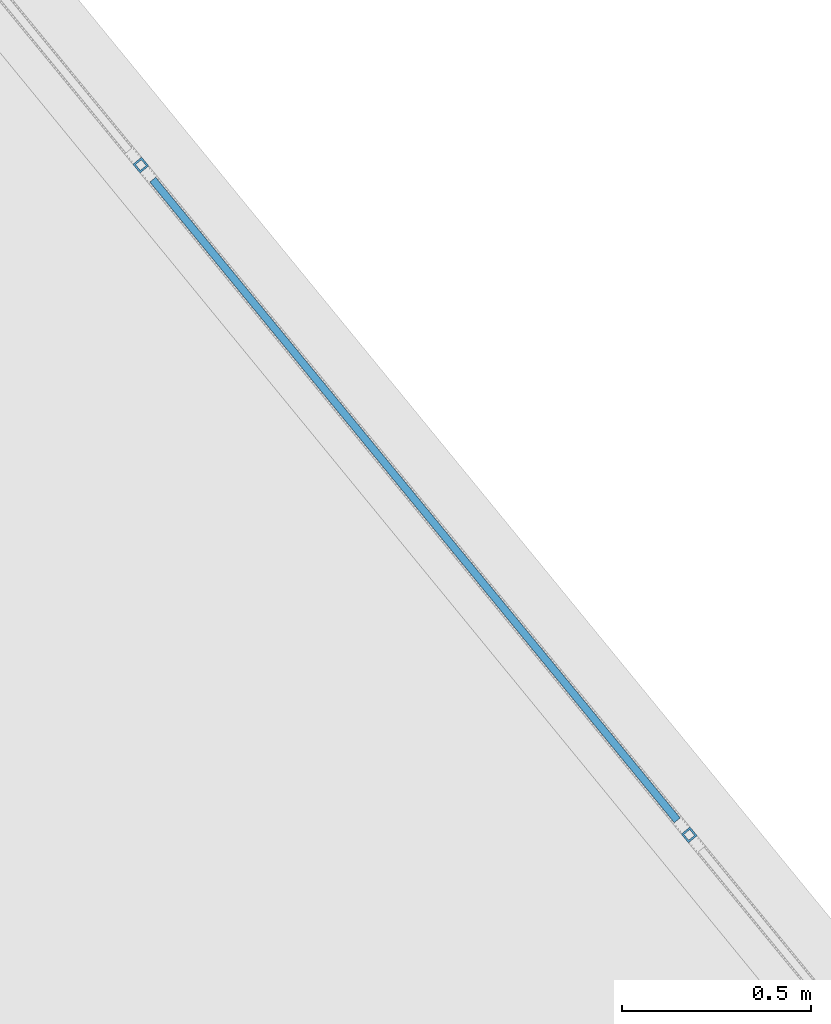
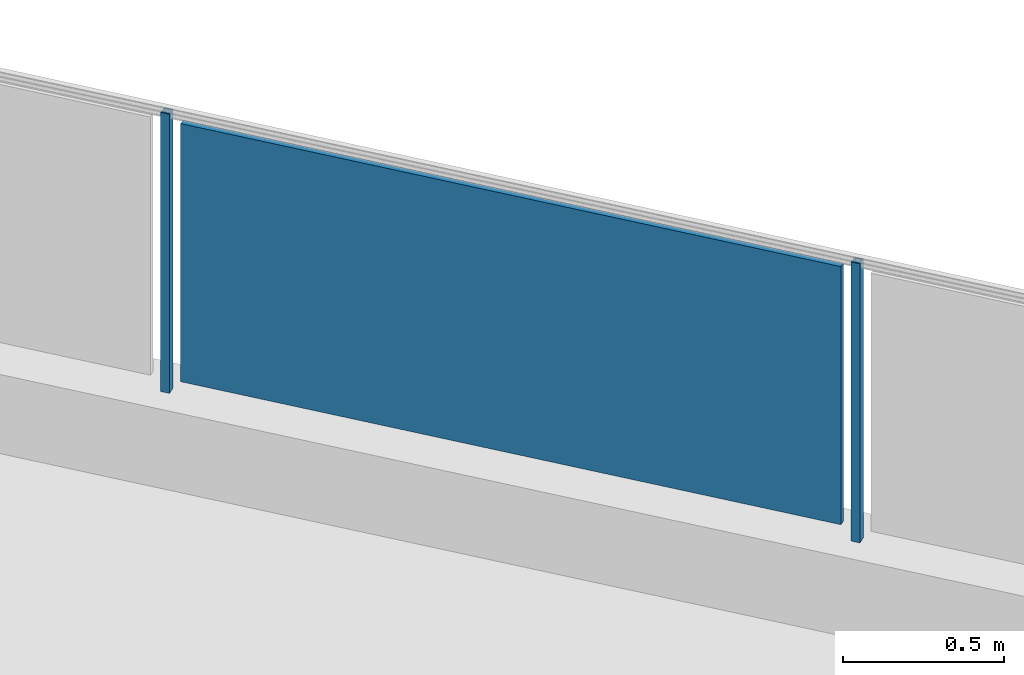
# One storey, part 18 of 75: 3 building element parts, 1 element without a shape of its own.
"""IFC4 building model written with IfcOpenShell, lengths in metres."""

import ifcopenshell
import ifcopenshell.guid

model = None  # the IFC model being written
_history = None  # IfcOwnerHistory: only IFC2X3 demands one
_inside = {}  # id of a spatial element -> (the spatial element, [elements in it])
_under = {}  # id of a project, library or spatial element -> (it, [spatial elements below it])
_declared = {}  # id of a project -> (the project, [libraries it declares])
_typed = {}  # id of a type object -> (the type object, [elements of that type])
_made_of = {}  # id of a material, layer set ... -> (it, [elements and type objects made of it])


def new_model(schema):
    """Start an empty IFC model of exactly this schema.

    Asked for "IFC4X3", IfcOpenShell would pick the latest addendum, in which some entities
    have other attributes; the version numbers below select the first issue.
    IFC2X3 requires an IfcOwnerHistory on every rooted entity: one is made here for all.
    """
    global model, _history
    if schema == "IFC4X3":
        model = ifcopenshell.file(schema_version=(4, 3, 0, 0))
    else:
        model = ifcopenshell.file(schema=schema)
    _inside.clear()
    _under.clear()
    _declared.clear()
    _typed.clear()
    _made_of.clear()
    _history = None
    if model.schema == "IFC2X3":
        org = make("IfcOrganization", Name="unknown")
        user = make(
            "IfcPersonAndOrganization",
            ThePerson=make("IfcPerson", FamilyName="unknown"),
            TheOrganization=org,
        )
        app = make(
            "IfcApplication",
            ApplicationDeveloper=org,
            Version="unknown",
            ApplicationFullName="unknown",
            ApplicationIdentifier="unknown",
        )
        _history = make(
            "IfcOwnerHistory",
            OwningUser=user,
            OwningApplication=app,
            ChangeAction="ADDED",
            CreationDate=0,
        )
    return model


def make(cls, **values):
    """One entity of the class cls with the attributes given. An attribute that is None is left unset."""
    return model.create_entity(
        cls, **{name: value for name, value in values.items() if value is not None}
    )


def entity(cls, *values):
    """Any entity or typed value of the class cls, its attributes in the order of the schema. None: left unset."""
    e = model.create_entity(cls)
    for i, value in enumerate(values):
        if value is not None:
            e[i] = value
    return e


def rooted(cls, **values):
    """An entity with a GlobalId (a new one), such as an element, a storey or a relation."""
    return make(cls, GlobalId=ifcopenshell.guid.new(), OwnerHistory=_history, **values)


def si_unit(unit_type, name, prefix=None):
    """IfcSIUnit, for example si_unit("LENGTHUNIT", "METRE", prefix="MILLI")."""
    return make("IfcSIUnit", UnitType=unit_type, Prefix=prefix, Name=name)


def converted_unit(unit_type, name, factor, base, dimensions=None, offset=None):
    """IfcConversionBasedUnit, such as the inch: factor (a typed value) times the base unit."""
    return make(
        "IfcConversionBasedUnit"
        if offset is None
        else "IfcConversionBasedUnitWithOffset",
        ConversionOffset=offset,
        Dimensions=None
        if dimensions is None
        else entity("IfcDimensionalExponents", *dimensions),
        UnitType=unit_type,
        Name=name,
        ConversionFactor=make(
            "IfcMeasureWithUnit", ValueComponent=factor, UnitComponent=base
        ),
    )


def derived_unit(unit_type, elements):
    """IfcDerivedUnit: a product of units, each with its exponent."""
    return make(
        "IfcDerivedUnit",
        Elements=[
            make("IfcDerivedUnitElement", Unit=unit, Exponent=power)
            for unit, power in elements
        ],
        UnitType=unit_type,
    )


def assignment(units):
    """IfcUnitAssignment: the units of a project."""
    return None if units is None else make("IfcUnitAssignment", Units=units)


def point(xyz):
    """IfcCartesianPoint."""
    return None if xyz is None else make("IfcCartesianPoint", Coordinates=xyz)


def direction(xyz):
    """IfcDirection."""
    return None if xyz is None else make("IfcDirection", DirectionRatios=xyz)


def frame(location, z_axis=None, x_axis=None):
    """IfcAxis2Placement3D, a coordinate frame: its origin and axes. An axis left out is left unset."""
    return make(
        "IfcAxis2Placement3D",
        Location=point(location),
        Axis=direction(z_axis),
        RefDirection=direction(x_axis),
    )


def origin_with_axes():
    """The frame at (0, 0, 0) with the z axis (0, 0, 1) and the x axis (1, 0, 0) written out."""
    return frame((0.0, 0.0, 0.0), z_axis=(0.0, 0.0, 1.0), x_axis=(1.0, 0.0, 0.0))


def place(relative_to, where):
    """IfcLocalPlacement: puts the frame where relative to a parent placement (None: the world)."""
    return make(
        "IfcLocalPlacement", PlacementRelTo=relative_to, RelativePlacement=where
    )


def context(
    kind, dimensions, precision=None, world=None, true_north=None, identifier=None
):
    """IfcGeometricRepresentationContext, for example the 3D "Model" context."""
    return make(
        "IfcGeometricRepresentationContext",
        ContextIdentifier=identifier,
        ContextType=kind,
        CoordinateSpaceDimension=dimensions,
        Precision=precision,
        WorldCoordinateSystem=world,
        TrueNorth=true_north,
    )


def subcontext(parent, identifier, kind, view, scale=None):
    """IfcGeometricRepresentationSubContext, for example "Body" below "Model"."""
    return make(
        "IfcGeometricRepresentationSubContext",
        ContextIdentifier=identifier,
        ContextType=kind,
        ParentContext=parent,
        TargetScale=scale,
        TargetView=view,
    )


def project(units=None, contexts=None):
    """IfcProject with its units and contexts."""
    return rooted(
        "IfcProject",
        Name="project",
        RepresentationContexts=contexts,
        UnitsInContext=assignment(units),
    )


def spatial(cls, under=None, at=None, **own):
    """A site, building, storey or space (cls), placed at a placement, below another one or the project."""
    s = rooted(cls, ObjectPlacement=at, **own)
    if under is not None:
        _under.setdefault(under.id(), (under, []))[1].append(s)
    return s


def point_list(points):
    """IfcCartesianPointList2D or 3D."""
    cls = (
        "IfcCartesianPointList2D" if len(points[0]) == 2 else "IfcCartesianPointList3D"
    )
    return make(cls, CoordList=points)


def polygons(points, faces, closed=None, point_numbers=None):
    """IfcPolygonalFaceSet: a face is its outer loop, then its inner loops; points numbered from 1."""
    made = []
    for loops in faces:
        if len(loops) == 1:
            made.append(make("IfcIndexedPolygonalFace", CoordIndex=loops[0]))
        else:
            made.append(
                make(
                    "IfcIndexedPolygonalFaceWithVoids",
                    CoordIndex=loops[0],
                    InnerCoordIndices=loops[1:],
                )
            )
    return make(
        "IfcPolygonalFaceSet",
        Coordinates=point_list(points),
        Closed=closed,
        Faces=made,
        PnIndex=point_numbers,
    )


def shape(context_of_items, identifier, shape_type, items):
    """IfcShapeRepresentation: the items that make up one representation, for example the "Body"."""
    return make(
        "IfcShapeRepresentation",
        ContextOfItems=context_of_items,
        RepresentationIdentifier=identifier,
        RepresentationType=shape_type,
        Items=items,
    )


def material(Name=None, Category=None):
    """IfcMaterial."""
    return make("IfcMaterial", Name=Name, Category=Category)


def made_of(thing, what):
    """Note that an element or type object is made of a material, layer set ...; save() writes the relation."""
    if what is not None:
        _made_of.setdefault(what.id(), (what, []))[1].append(thing)
    return thing


def type_object(cls, material=None, **own):
    """A type object (cls), such as IfcWallType, which elements share."""
    return made_of(rooted(cls, **own), material)


def element(
    cls,
    number,
    at=None,
    inside=None,
    cuts=None,
    type_object=None,
    material=None,
    context=None,
    identifier="Body",
    shape_type=None,
    held_by="IfcProductDefinitionShape",
    body=None,
    shapes=None,
    **own,
):
    """One element of the class cls, such as IfcWall. Its Tag is "e" and its number.

    at: its placement. inside: the storey or other place that contains it. cuts: it is an
    opening in that element (IfcRelVoidsElement). A single representation is given by context,
    identifier, shape_type and body (its items); several are given by shapes. held_by: the class
    of the entity that holds the representations. save() writes the other relations.
    """
    e = rooted(cls, Tag="e%d" % number, ObjectPlacement=at, **own)
    if body is not None:
        shapes = [shape(context, identifier, shape_type, body)]
    if shapes is not None:
        e.Representation = make(held_by, Representations=shapes)
    if inside is not None:
        _inside.setdefault(inside.id(), (inside, []))[1].append(e)
    if cuts is not None:
        rooted(
            "IfcRelVoidsElement", RelatingBuildingElement=cuts, RelatedOpeningElement=e
        )
    if type_object is not None:
        _typed.setdefault(type_object.id(), (type_object, []))[1].append(e)
    return made_of(e, material)


def aggregate(whole, parts):
    """IfcRelAggregates: a whole, such as a stair, and the parts it consists of."""
    return rooted("IfcRelAggregates", RelatingObject=whole, RelatedObjects=parts)


def save(model, path):
    """Write the relations noted so far, then the file.

    IfcRelAggregates (storeys below a building ...), IfcRelContainedInSpatialStructure (elements
    in a storey), IfcRelDefinesByType, IfcRelAssociatesMaterial and IfcRelDeclares: one each for
    every whole, place, type object, material and project.
    """
    for whole, parts in _under.values():
        aggregate(whole, parts)
    for where, things in _inside.values():
        rooted(
            "IfcRelContainedInSpatialStructure",
            RelatedElements=things,
            RelatingStructure=where,
        )
    for kind, things in _typed.values():
        rooted("IfcRelDefinesByType", RelatedObjects=things, RelatingType=kind)
    for what, things in _made_of.values():
        rooted("IfcRelAssociatesMaterial", RelatedObjects=things, RelatingMaterial=what)
    for by, libraries in _declared.values():
        rooted("IfcRelDeclares", RelatingContext=by, RelatedDefinitions=libraries)
    model.write(path)


model = new_model("IFC4")

# Units and contexts
model_context = context("Model", 3, precision=1e-05, world=origin_with_axes(), true_north=direction((0.0, 1.0)))
body_context = subcontext(model_context, "Body", "Model", "MODEL_VIEW")
ifc_project = project(units=[si_unit("LENGTHUNIT", "METRE"), si_unit("AREAUNIT", "SQUARE_METRE"), si_unit("VOLUMEUNIT", "CUBIC_METRE"), converted_unit("PLANEANGLEUNIT", "DEGREE", entity("IfcPlaneAngleMeasure", 0.0174532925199), si_unit("PLANEANGLEUNIT", "RADIAN"), dimensions=[0, 0, 0, 0, 0, 0, 0]), converted_unit("TIMEUNIT", "Year", entity("IfcTimeMeasure", 31556926.0), si_unit("TIMEUNIT", "SECOND"), dimensions=[0, 0, 1, 0, 0, 0, 0]), si_unit("MASSUNIT", "GRAM", prefix="KILO"), si_unit("THERMODYNAMICTEMPERATUREUNIT", "DEGREE_CELSIUS"), si_unit("LUMINOUSINTENSITYUNIT", "LUMEN"), si_unit("ENERGYUNIT", "JOULE", prefix="MEGA"), derived_unit("THERMALCONDUCTANCEUNIT", [(si_unit("POWERUNIT", "WATT"), 1), (si_unit("LENGTHUNIT", "METRE"), -1), (si_unit("THERMODYNAMICTEMPERATUREUNIT", "KELVIN"), -1)]), derived_unit("SPECIFICHEATCAPACITYUNIT", [(si_unit("ENERGYUNIT", "JOULE"), 1), (si_unit("MASSUNIT", "GRAM", prefix="KILO"), -1), (si_unit("THERMODYNAMICTEMPERATUREUNIT", "KELVIN"), -1)]), derived_unit("MASSDENSITYUNIT", [(si_unit("MASSUNIT", "GRAM", prefix="KILO"), 1), (si_unit("VOLUMEUNIT", "CUBIC_METRE"), -1)])], contexts=[model_context])

# Site, building, storey
site_placement = place(None, frame((-0.00153261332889, -0.00661245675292, 0.0), z_axis=(0.0, 0.0, 1.0), x_axis=(1.0, 0.0, 0.0)))
site = spatial("IfcSite", under=ifc_project, at=site_placement, Name="Gelände", CompositionType="ELEMENT")
building_placement = place(site_placement, origin_with_axes())
building = spatial("IfcBuilding", under=site, at=building_placement, Name="Gebäude", CompositionType="ELEMENT")
storey_placement = place(building_placement, frame((0.0, 0.0, -0.22), z_axis=(0.0, 0.0, 1.0), x_axis=(1.0, 0.0, 0.0)))
storey = spatial("IfcBuildingStorey", under=building, at=storey_placement, Name="EG", CompositionType="ELEMENT", Elevation=-0.22)

# Railing, building element parts
railing_type = type_object("IfcRailingType", Name="Geländerart", PredefinedType="NOTDEFINED")
railing_placement = place(storey_placement, frame((-12.1608341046, 23.557810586, 0.523948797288), z_axis=(0.0, 0.0, 1.0), x_axis=(1.0, 0.0, 0.0)))
railing = element("IfcRailing", 1, at=railing_placement, inside=storey, type_object=railing_type, Name="Geländer - 001", PredefinedType="NOTDEFINED")
ifc_material_1 = material(Name="Aluminium")
building_element_part_1_placement = place(railing_placement, origin_with_axes())
building_element_part_1 = element("IfcBuildingElementPart", 2, at=building_element_part_1_placement, material=ifc_material_1, Name="Aluminium", PredefinedType="NOTDEFINED", context=body_context, shape_type="Tessellation", body=[
    polygons([(-0.914733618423, -7.44434630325, 0.0), (-0.891520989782, -7.42534172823, 0.0), (-0.891520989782, -7.42534172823, 1.06), (-0.914733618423, -7.44434630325, 1.06), (-0.93373819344, -7.42113367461, 0.0), (-0.910525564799, -7.40212909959, 0.0), (-0.914032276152, -7.43731010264, 0.0), (-0.898557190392, -7.42464038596, 0.0), (-0.911226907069, -7.4091653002, 0.0), (-0.92670199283, -7.42183501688, 0.0), (-0.910525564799, -7.40212909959, 1.06), (-0.93373819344, -7.42113367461, 1.06), (-0.914032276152, -7.43731010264, 1.06), (-0.92670199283, -7.42183501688, 1.06), (-0.911226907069, -7.4091653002, 1.06), (-0.898557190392, -7.42464038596, 1.06)], [[[1, 2, 3, 4]], [[1, 5, 6, 2], [7, 8, 9, 10]], [[2, 6, 11, 3]], [[4, 3, 11, 12], [13, 14, 15, 16]], [[5, 1, 4, 12]], [[6, 5, 12, 11]], [[8, 7, 13, 16]], [[9, 8, 16, 15]], [[10, 9, 15, 14]], [[7, 10, 14, 13]]], closed=True),
])
ifc_material_2 = material(Name="Zaun")
building_element_part_2_placement = place(railing_placement, origin_with_axes())
building_element_part_2 = element("IfcBuildingElementPart", 3, at=building_element_part_2_placement, material=ifc_material_2, Name="Zaun", PredefinedType="NOTDEFINED", context=body_context, shape_type="Tessellation", body=[
    polygons([(0.517698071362, -9.15448740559, 0.05), (-0.873217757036, -7.45559055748, 0.05), (-0.873217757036, -7.45559055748, 1.03), (0.517698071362, -9.15448740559, 1.03), (-0.888692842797, -7.46826027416, 0.05), (0.502222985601, -9.16715712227, 0.05), (-0.888692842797, -7.46826027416, 1.03), (0.502222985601, -9.16715712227, 1.03)], [[[1, 2, 3, 4]], [[5, 2, 1, 6]], [[7, 3, 2, 5]], [[4, 3, 7, 8]], [[1, 4, 8, 6]], [[7, 5, 6, 8]]], closed=True),
])
building_element_part_3_placement = place(railing_placement, origin_with_axes())
building_element_part_3 = element("IfcBuildingElementPart", 4, at=building_element_part_3_placement, material=ifc_material_1, Name="Aluminium", PredefinedType="NOTDEFINED", context=body_context, shape_type="Tessellation", body=[
    polygons([(0.539530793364, -9.22061858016, 0.0), (0.562743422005, -9.20161400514, 0.0), (0.562743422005, -9.20161400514, 1.06), (0.539530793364, -9.22061858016, 1.06), (0.520526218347, -9.19740595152, 0.0), (0.543738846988, -9.1784013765, 0.0), (0.540232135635, -9.21358237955, 0.0), (0.555707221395, -9.20091266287, 0.0), (0.543037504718, -9.18543757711, 0.0), (0.527562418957, -9.19810729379, 0.0), (0.543738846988, -9.1784013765, 1.06), (0.520526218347, -9.19740595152, 1.06), (0.540232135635, -9.21358237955, 1.06), (0.527562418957, -9.19810729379, 1.06), (0.543037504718, -9.18543757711, 1.06), (0.555707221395, -9.20091266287, 1.06)], [[[1, 2, 3, 4]], [[1, 5, 6, 2], [7, 8, 9, 10]], [[2, 6, 11, 3]], [[4, 3, 11, 12], [13, 14, 15, 16]], [[5, 1, 4, 12]], [[6, 5, 12, 11]], [[8, 7, 13, 16]], [[9, 8, 16, 15]], [[10, 9, 15, 14]], [[7, 10, 14, 13]]], closed=True),
])
aggregate(railing, [building_element_part_1, building_element_part_2, building_element_part_3])

save(model, "model.ifc")
